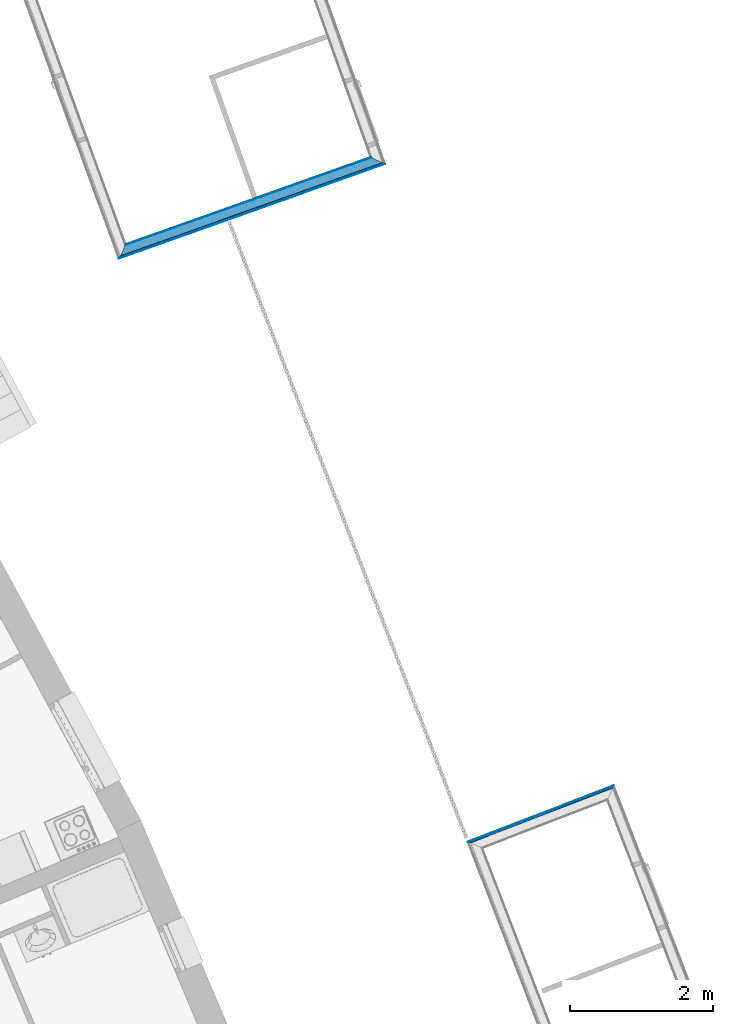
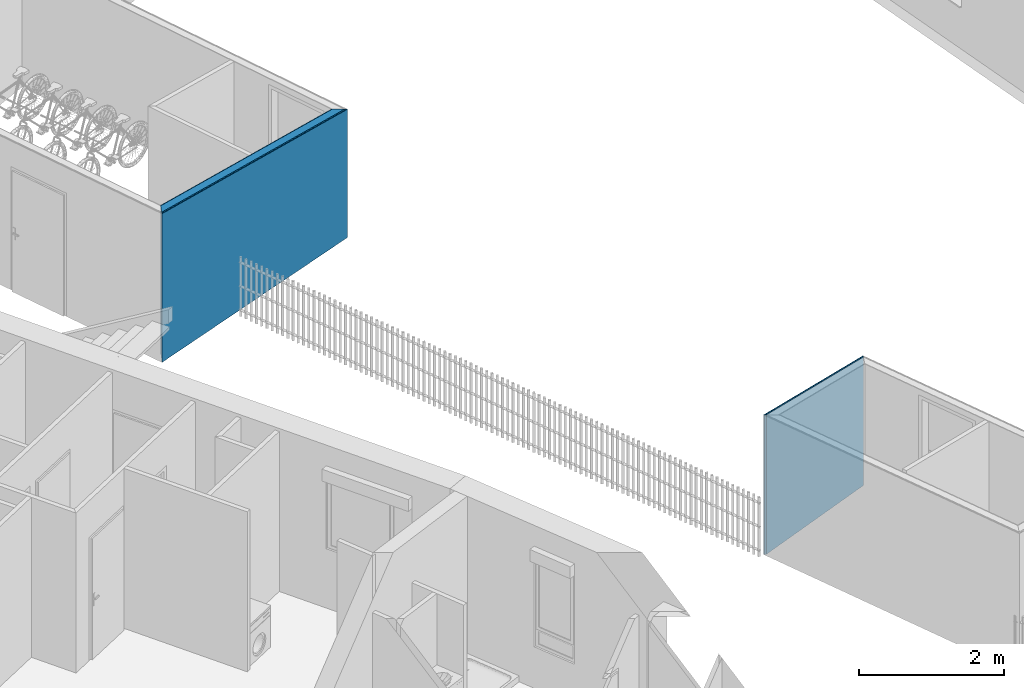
# One storey, part 128 of 195: 6 building element parts, 2 elements without a shape of their own.
"""IFC2X3 building model written with IfcOpenShell, lengths in metres."""

from ifc_helpers import new_model, entity, si_unit, converted_unit, derived_unit, money_unit, direction, frame, origin_with_axes, place, context, subcontext, project, spatial, polyline, outline, extrude, boolean, faceted_brep, material, type_object, element, aggregate, save


model = new_model("IFC2X3")

# Units and contexts
model_context = context("Model", 3, precision=1e-05, world=origin_with_axes(), true_north=direction((0.0, 1.0)))
body_context = subcontext(model_context, "Body", "Model", "MODEL_VIEW")
ifc_project = project(units=[si_unit("LENGTHUNIT", "METRE"), si_unit("AREAUNIT", "SQUARE_METRE"), si_unit("VOLUMEUNIT", "CUBIC_METRE"), converted_unit("PLANEANGLEUNIT", "DEGREE", entity("IfcPlaneAngleMeasure", 0.0174532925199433), si_unit("PLANEANGLEUNIT", "RADIAN"), dimensions=[0, 0, 0, 0, 0, 0, 0]), money_unit("CHF"), converted_unit("TIMEUNIT", "Year", entity("IfcTimeMeasure", 31557600.0), si_unit("TIMEUNIT", "SECOND"), dimensions=[0, 0, 1, 0, 0, 0, 0]), si_unit("MASSUNIT", "GRAM", prefix="KILO"), si_unit("THERMODYNAMICTEMPERATUREUNIT", "DEGREE_CELSIUS"), si_unit("LUMINOUSINTENSITYUNIT", "LUMEN"), si_unit("ENERGYUNIT", "JOULE", prefix="MEGA"), derived_unit("THERMALCONDUCTANCEUNIT", [(si_unit("POWERUNIT", "WATT"), 1), (si_unit("LENGTHUNIT", "METRE"), -1), (si_unit("THERMODYNAMICTEMPERATUREUNIT", "KELVIN"), -1)]), derived_unit("SPECIFICHEATCAPACITYUNIT", [(si_unit("ENERGYUNIT", "JOULE"), 1), (si_unit("MASSUNIT", "GRAM", prefix="KILO"), -1), (si_unit("THERMODYNAMICTEMPERATUREUNIT", "KELVIN"), -1)]), derived_unit("MASSDENSITYUNIT", [(si_unit("MASSUNIT", "GRAM", prefix="KILO"), 1), (si_unit("VOLUMEUNIT", "CUBIC_METRE"), -1)])], contexts=[model_context])

# Site, building, storey
site_placement = place(None, origin_with_axes())
site = spatial("IfcSite", under=ifc_project, at=site_placement, Name="Site", CompositionType="ELEMENT")
building_placement = place(site_placement, origin_with_axes())
building = spatial("IfcBuilding", under=site, at=building_placement, Name="Bâtiment", CompositionType="ELEMENT")
storey_placement = place(building_placement, origin_with_axes())
storey = spatial("IfcBuildingStorey", under=building, at=storey_placement, Name="rdc", CompositionType="ELEMENT", Elevation=0.0)

# Wall, building element parts
wall_type = type_object("IfcWallType", Name="1/Ossatur bois 160   non isol 160", PredefinedType="NOTDEFINED")
wall_1_placement = place(storey_placement, frame((9570.780394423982, -1026.049929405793, 57.7), z_axis=(0.0, 0.0, 1.0), x_axis=(-0.9421160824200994, -0.3352868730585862, 0.0)))
wall_1 = element("IfcWall", 1, at=wall_1_placement, inside=storey, type_object=wall_type, Name="Mur-108")
ifc_material_1 = material(Name="Sans Trame 296962763")
building_element_part_1_placement = place(wall_1_placement, origin_with_axes())
building_element_part_1 = element("IfcBuildingElementPart", 2, at=building_element_part_1_placement, material=ifc_material_1, Name="Sans Trame 296962763", context=body_context, shape_type="CSG", body=[
    boolean("DIFFERENCE", boolean("DIFFERENCE", boolean("DIFFERENCE", boolean("DIFFERENCE", extrude(outline(polyline([(0.0, -0.1599999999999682), (3.962207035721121, -0.1599999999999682), (3.962207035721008, -0.1499999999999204), (0.0, -0.1499999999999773), (0.0, -0.1599999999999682)])), origin_with_axes(), (0.0, 0.0, 1.0), 2.75), faceted_brep([(3.812134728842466, -0.1499999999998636, 0.0), (3.812134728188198, -0.1499999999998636, 2.497743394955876), (0.1500000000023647, -0.1499999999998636, 2.177348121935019), (0.1500000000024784, -0.1499999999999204, 0.0), (0.0, -0.1499999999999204, 0.0), (0.0, -0.1499999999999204, 2.75), (3.962207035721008, -0.1499999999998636, 2.75), (3.962207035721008, -0.1499999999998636, 0.0), (3.802203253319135, -0.1599999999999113, 0.0), (3.802203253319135, -0.1599999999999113, 2.49687450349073), (0.1600000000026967, -0.1599999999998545, 2.178223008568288), (0.1600000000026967, -0.1599999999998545, 0.0), (0.0, -0.1599999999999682, 0.0), (0.0, -0.1599999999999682, 2.75), (3.962207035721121, -0.1599999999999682, 2.75), (3.962207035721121, -0.1599999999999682, 0.0)], [[[0, 1, 2, 3, 4, 5, 6, 7]], [[8, 9, 1, 0]], [[2, 1, 9, 10]], [[3, 2, 10, 11]], [[3, 11, 12, 4]], [[5, 4, 12, 13]], [[5, 13, 14, 6]], [[14, 15, 7, 6]], [[8, 0, 7, 15]], [[9, 8, 15, 14, 13, 12, 11, 10]]])), faceted_brep([(3.93131243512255, -0.02999999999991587, 0.0), (3.9313124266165, -0.02999999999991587, 2.508170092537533), (0.03000000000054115, -0.02999999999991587, 2.166849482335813), (0.03000000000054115, -0.02999999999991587, 0.0), (0.0, -0.02999999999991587, 0.0), (0.0, -0.02999999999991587, 2.75), (3.962207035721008, -0.02999999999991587, 2.75), (3.962207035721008, -0.02999999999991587, 0.0), (3.812134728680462, -0.1500000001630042, 0.0), (3.812134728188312, -0.1499999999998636, 2.497743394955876), (0.1500000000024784, -0.1499999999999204, 2.177348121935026), (0.1500000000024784, -0.1499999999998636, 0.0), (0.0, -0.1499999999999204, 0.0), (0.0, -0.1499999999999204, 2.75), (3.962207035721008, -0.1499999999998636, 2.75), (3.962207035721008, -0.1499999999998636, 0.0)], [[[0, 1, 2, 3, 4, 5, 6, 7]], [[8, 9, 1, 0]], [[2, 1, 9, 10]], [[3, 2, 10, 11]], [[3, 11, 12, 4]], [[5, 4, 12, 13]], [[5, 13, 14, 6]], [[14, 15, 7, 6]], [[8, 0, 7, 15]], [[9, 8, 15, 14, 13, 12, 11, 10]]])), faceted_brep([(3.951175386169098, -0.009999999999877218, 0.0), (3.951175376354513, -0.009999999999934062, 2.50990787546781), (0.01000000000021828, -0.009999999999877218, 2.165099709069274), (0.01000000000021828, -0.009999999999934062, 0.0), (0.0, -0.009999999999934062, 0.0), (0.0, -0.009999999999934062, 2.75), (3.962207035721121, -0.009999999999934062, 2.75), (3.962207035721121, -0.009999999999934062, 0.0), (3.931312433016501, -0.03000000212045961, 0.0), (3.9313124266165, -0.02999999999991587, 2.508170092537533), (0.03000000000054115, -0.02999999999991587, 2.166849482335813), (0.03000000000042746, -0.02999999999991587, 0.0), (0.0, -0.02999999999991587, 0.0), (0.0, -0.02999999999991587, 2.75), (3.962207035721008, -0.02999999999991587, 2.75), (3.962207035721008, -0.02999999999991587, 0.0)], [[[0, 1, 2, 3, 4, 5, 6, 7]], [[8, 9, 1, 0]], [[2, 1, 9, 10]], [[3, 2, 10, 11]], [[3, 11, 12, 4]], [[5, 4, 12, 13]], [[5, 13, 14, 6]], [[14, 15, 7, 6]], [[8, 0, 7, 15]], [[9, 8, 15, 14, 13, 12, 11, 10]]])), faceted_brep([(3.961106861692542, 0.0, 0.0), (3.961106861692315, 1.054104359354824e-08, 2.510776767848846), (0.0, 0.0, 2.164224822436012), (0.0, 0.0, 2.75), (3.962207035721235, 0.0, 2.75), (3.962207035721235, 0.0, 0.0), (3.951175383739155, -0.01000000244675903, 0.0), (3.951175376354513, -0.009999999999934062, 2.50990787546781), (0.01000000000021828, -0.009999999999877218, 2.165099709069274), (0.0, 0.0, 0.0), (0.0, -0.009999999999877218, 0.0), (0.0, -0.009999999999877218, 2.75), (3.962207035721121, -0.009999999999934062, 2.75), (3.962207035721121, -0.009999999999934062, 0.0), (0.01000000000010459, -0.009999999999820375, 0.0)], [[[0, 1, 2, 3, 4, 5]], [[6, 7, 1, 0]], [[2, 1, 7, 8]], [[2, 9, 10, 11, 3]], [[3, 11, 12, 4]], [[12, 13, 5, 4]], [[6, 0, 5, 13]], [[7, 6, 13, 12, 11, 10, 14, 8]], [[9, 2, 8, 14]], [[9, 14, 10]]])),
])
ifc_material_2 = material(Name="Lame d'air 275581439")
building_element_part_2_placement = place(wall_1_placement, origin_with_axes())
building_element_part_2 = element("IfcBuildingElementPart", 3, at=building_element_part_2_placement, material=ifc_material_2, Name="Lame d'air 275581439", context=body_context, shape_type="CSG", body=[
    boolean("DIFFERENCE", boolean("DIFFERENCE", boolean("DIFFERENCE", boolean("DIFFERENCE", extrude(outline(polyline([(0.0, -0.1499999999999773), (3.962207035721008, -0.1499999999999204), (3.962207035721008, -0.02999999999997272), (0.0, -0.02999999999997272), (0.0, -0.1499999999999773)])), origin_with_axes(), (0.0, 0.0, 1.0), 2.75), faceted_brep([(3.812134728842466, -0.1499999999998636, 0.0), (3.812134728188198, -0.1499999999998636, 2.497743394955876), (0.1500000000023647, -0.1499999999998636, 2.177348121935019), (0.1500000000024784, -0.1499999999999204, 0.0), (0.0, -0.1499999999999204, 0.0), (0.0, -0.1499999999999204, 2.75), (3.962207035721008, -0.1499999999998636, 2.75), (3.962207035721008, -0.1499999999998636, 0.0), (3.802203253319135, -0.1599999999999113, 0.0), (3.802203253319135, -0.1599999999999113, 2.49687450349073), (0.1600000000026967, -0.1599999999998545, 2.178223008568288), (0.1600000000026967, -0.1599999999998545, 0.0), (0.0, -0.1599999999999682, 0.0), (0.0, -0.1599999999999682, 2.75), (3.962207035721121, -0.1599999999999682, 2.75), (3.962207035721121, -0.1599999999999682, 0.0)], [[[0, 1, 2, 3, 4, 5, 6, 7]], [[8, 9, 1, 0]], [[2, 1, 9, 10]], [[3, 2, 10, 11]], [[3, 11, 12, 4]], [[5, 4, 12, 13]], [[5, 13, 14, 6]], [[14, 15, 7, 6]], [[8, 0, 7, 15]], [[9, 8, 15, 14, 13, 12, 11, 10]]])), faceted_brep([(3.93131243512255, -0.02999999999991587, 0.0), (3.9313124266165, -0.02999999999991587, 2.508170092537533), (0.03000000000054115, -0.02999999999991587, 2.166849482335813), (0.03000000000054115, -0.02999999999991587, 0.0), (0.0, -0.02999999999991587, 0.0), (0.0, -0.02999999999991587, 2.75), (3.962207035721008, -0.02999999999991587, 2.75), (3.962207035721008, -0.02999999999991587, 0.0), (3.812134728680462, -0.1500000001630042, 0.0), (3.812134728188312, -0.1499999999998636, 2.497743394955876), (0.1500000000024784, -0.1499999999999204, 2.177348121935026), (0.1500000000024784, -0.1499999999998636, 0.0), (0.0, -0.1499999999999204, 0.0), (0.0, -0.1499999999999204, 2.75), (3.962207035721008, -0.1499999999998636, 2.75), (3.962207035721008, -0.1499999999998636, 0.0)], [[[0, 1, 2, 3, 4, 5, 6, 7]], [[8, 9, 1, 0]], [[2, 1, 9, 10]], [[3, 2, 10, 11]], [[3, 11, 12, 4]], [[5, 4, 12, 13]], [[5, 13, 14, 6]], [[14, 15, 7, 6]], [[8, 0, 7, 15]], [[9, 8, 15, 14, 13, 12, 11, 10]]])), faceted_brep([(3.951175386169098, -0.009999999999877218, 0.0), (3.951175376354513, -0.009999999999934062, 2.50990787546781), (0.01000000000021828, -0.009999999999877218, 2.165099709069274), (0.01000000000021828, -0.009999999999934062, 0.0), (0.0, -0.009999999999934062, 0.0), (0.0, -0.009999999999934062, 2.75), (3.962207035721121, -0.009999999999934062, 2.75), (3.962207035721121, -0.009999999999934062, 0.0), (3.931312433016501, -0.03000000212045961, 0.0), (3.9313124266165, -0.02999999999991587, 2.508170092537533), (0.03000000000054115, -0.02999999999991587, 2.166849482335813), (0.03000000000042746, -0.02999999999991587, 0.0), (0.0, -0.02999999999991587, 0.0), (0.0, -0.02999999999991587, 2.75), (3.962207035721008, -0.02999999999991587, 2.75), (3.962207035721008, -0.02999999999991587, 0.0)], [[[0, 1, 2, 3, 4, 5, 6, 7]], [[8, 9, 1, 0]], [[2, 1, 9, 10]], [[3, 2, 10, 11]], [[3, 11, 12, 4]], [[5, 4, 12, 13]], [[5, 13, 14, 6]], [[14, 15, 7, 6]], [[8, 0, 7, 15]], [[9, 8, 15, 14, 13, 12, 11, 10]]])), faceted_brep([(3.961106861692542, 0.0, 0.0), (3.961106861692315, 1.054104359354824e-08, 2.510776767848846), (0.0, 0.0, 2.164224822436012), (0.0, 0.0, 2.75), (3.962207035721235, 0.0, 2.75), (3.962207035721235, 0.0, 0.0), (3.951175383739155, -0.01000000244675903, 0.0), (3.951175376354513, -0.009999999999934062, 2.50990787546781), (0.01000000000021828, -0.009999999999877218, 2.165099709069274), (0.0, 0.0, 0.0), (0.0, -0.009999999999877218, 0.0), (0.0, -0.009999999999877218, 2.75), (3.962207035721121, -0.009999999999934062, 2.75), (3.962207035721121, -0.009999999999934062, 0.0), (0.01000000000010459, -0.009999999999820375, 0.0)], [[[0, 1, 2, 3, 4, 5]], [[6, 7, 1, 0]], [[2, 1, 7, 8]], [[2, 9, 10, 11, 3]], [[3, 11, 12, 4]], [[12, 13, 5, 4]], [[6, 0, 5, 13]], [[7, 6, 13, 12, 11, 10, 14, 8]], [[9, 2, 8, 14]], [[9, 14, 10]]])),
])
ifc_material_3 = material(Name="Hachure solide 323202122")
building_element_part_3_placement = place(wall_1_placement, origin_with_axes())
building_element_part_3 = element("IfcBuildingElementPart", 4, at=building_element_part_3_placement, material=ifc_material_3, Name="Hachure solide 323202122", context=body_context, shape_type="CSG", body=[
    boolean("DIFFERENCE", boolean("DIFFERENCE", boolean("DIFFERENCE", boolean("DIFFERENCE", extrude(outline(polyline([(0.0, -0.009999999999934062), (3.962207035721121, -0.009999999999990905), (3.962207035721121, 0.0), (0.0, 0.0), (0.0, -0.009999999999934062)])), origin_with_axes(), (0.0, 0.0, 1.0), 2.75), faceted_brep([(3.812134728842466, -0.1499999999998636, 0.0), (3.812134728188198, -0.1499999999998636, 2.497743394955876), (0.1500000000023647, -0.1499999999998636, 2.177348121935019), (0.1500000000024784, -0.1499999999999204, 0.0), (0.0, -0.1499999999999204, 0.0), (0.0, -0.1499999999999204, 2.75), (3.962207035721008, -0.1499999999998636, 2.75), (3.962207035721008, -0.1499999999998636, 0.0), (3.802203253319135, -0.1599999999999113, 0.0), (3.802203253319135, -0.1599999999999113, 2.49687450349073), (0.1600000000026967, -0.1599999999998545, 2.178223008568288), (0.1600000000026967, -0.1599999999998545, 0.0), (0.0, -0.1599999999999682, 0.0), (0.0, -0.1599999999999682, 2.75), (3.962207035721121, -0.1599999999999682, 2.75), (3.962207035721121, -0.1599999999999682, 0.0)], [[[0, 1, 2, 3, 4, 5, 6, 7]], [[8, 9, 1, 0]], [[2, 1, 9, 10]], [[3, 2, 10, 11]], [[3, 11, 12, 4]], [[5, 4, 12, 13]], [[5, 13, 14, 6]], [[14, 15, 7, 6]], [[8, 0, 7, 15]], [[9, 8, 15, 14, 13, 12, 11, 10]]])), faceted_brep([(3.93131243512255, -0.02999999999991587, 0.0), (3.9313124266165, -0.02999999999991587, 2.508170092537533), (0.03000000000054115, -0.02999999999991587, 2.166849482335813), (0.03000000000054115, -0.02999999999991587, 0.0), (0.0, -0.02999999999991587, 0.0), (0.0, -0.02999999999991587, 2.75), (3.962207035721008, -0.02999999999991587, 2.75), (3.962207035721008, -0.02999999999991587, 0.0), (3.812134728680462, -0.1500000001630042, 0.0), (3.812134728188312, -0.1499999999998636, 2.497743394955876), (0.1500000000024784, -0.1499999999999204, 2.177348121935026), (0.1500000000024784, -0.1499999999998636, 0.0), (0.0, -0.1499999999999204, 0.0), (0.0, -0.1499999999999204, 2.75), (3.962207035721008, -0.1499999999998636, 2.75), (3.962207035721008, -0.1499999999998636, 0.0)], [[[0, 1, 2, 3, 4, 5, 6, 7]], [[8, 9, 1, 0]], [[2, 1, 9, 10]], [[3, 2, 10, 11]], [[3, 11, 12, 4]], [[5, 4, 12, 13]], [[5, 13, 14, 6]], [[14, 15, 7, 6]], [[8, 0, 7, 15]], [[9, 8, 15, 14, 13, 12, 11, 10]]])), faceted_brep([(3.951175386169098, -0.009999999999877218, 0.0), (3.951175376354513, -0.009999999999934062, 2.50990787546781), (0.01000000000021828, -0.009999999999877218, 2.165099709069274), (0.01000000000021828, -0.009999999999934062, 0.0), (0.0, -0.009999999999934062, 0.0), (0.0, -0.009999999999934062, 2.75), (3.962207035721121, -0.009999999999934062, 2.75), (3.962207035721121, -0.009999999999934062, 0.0), (3.931312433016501, -0.03000000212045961, 0.0), (3.9313124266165, -0.02999999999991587, 2.508170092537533), (0.03000000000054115, -0.02999999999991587, 2.166849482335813), (0.03000000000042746, -0.02999999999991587, 0.0), (0.0, -0.02999999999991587, 0.0), (0.0, -0.02999999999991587, 2.75), (3.962207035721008, -0.02999999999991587, 2.75), (3.962207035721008, -0.02999999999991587, 0.0)], [[[0, 1, 2, 3, 4, 5, 6, 7]], [[8, 9, 1, 0]], [[2, 1, 9, 10]], [[3, 2, 10, 11]], [[3, 11, 12, 4]], [[5, 4, 12, 13]], [[5, 13, 14, 6]], [[14, 15, 7, 6]], [[8, 0, 7, 15]], [[9, 8, 15, 14, 13, 12, 11, 10]]])), faceted_brep([(3.961106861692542, 0.0, 0.0), (3.961106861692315, 1.054104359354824e-08, 2.510776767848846), (0.0, 0.0, 2.164224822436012), (0.0, 0.0, 2.75), (3.962207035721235, 0.0, 2.75), (3.962207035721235, 0.0, 0.0), (3.951175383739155, -0.01000000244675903, 0.0), (3.951175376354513, -0.009999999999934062, 2.50990787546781), (0.01000000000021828, -0.009999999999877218, 2.165099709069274), (0.0, 0.0, 0.0), (0.0, -0.009999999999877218, 0.0), (0.0, -0.009999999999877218, 2.75), (3.962207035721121, -0.009999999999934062, 2.75), (3.962207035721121, -0.009999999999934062, 0.0), (0.01000000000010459, -0.009999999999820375, 0.0)], [[[0, 1, 2, 3, 4, 5]], [[6, 7, 1, 0]], [[2, 1, 7, 8]], [[2, 9, 10, 11, 3]], [[3, 11, 12, 4]], [[12, 13, 5, 4]], [[6, 0, 5, 13]], [[7, 6, 13, 12, 11, 10, 14, 8]], [[9, 2, 8, 14]], [[9, 14, 10]]])),
])
ifc_material_4 = material(Name="Lame d'air 323202302")
building_element_part_4_placement = place(wall_1_placement, origin_with_axes())
building_element_part_4 = element("IfcBuildingElementPart", 5, at=building_element_part_4_placement, material=ifc_material_4, Name="Lame d'air 323202302", context=body_context, shape_type="CSG", body=[
    boolean("DIFFERENCE", boolean("DIFFERENCE", boolean("DIFFERENCE", boolean("DIFFERENCE", extrude(outline(polyline([(0.0, -0.02999999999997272), (3.962207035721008, -0.02999999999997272), (3.962207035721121, -0.009999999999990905), (0.0, -0.009999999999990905), (0.0, -0.02999999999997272)])), origin_with_axes(), (0.0, 0.0, 1.0), 2.75), faceted_brep([(3.812134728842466, -0.1499999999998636, 0.0), (3.812134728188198, -0.1499999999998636, 2.497743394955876), (0.1500000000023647, -0.1499999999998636, 2.177348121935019), (0.1500000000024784, -0.1499999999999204, 0.0), (0.0, -0.1499999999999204, 0.0), (0.0, -0.1499999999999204, 2.75), (3.962207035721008, -0.1499999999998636, 2.75), (3.962207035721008, -0.1499999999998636, 0.0), (3.802203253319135, -0.1599999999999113, 0.0), (3.802203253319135, -0.1599999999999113, 2.49687450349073), (0.1600000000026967, -0.1599999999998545, 2.178223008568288), (0.1600000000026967, -0.1599999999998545, 0.0), (0.0, -0.1599999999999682, 0.0), (0.0, -0.1599999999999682, 2.75), (3.962207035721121, -0.1599999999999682, 2.75), (3.962207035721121, -0.1599999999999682, 0.0)], [[[0, 1, 2, 3, 4, 5, 6, 7]], [[8, 9, 1, 0]], [[2, 1, 9, 10]], [[3, 2, 10, 11]], [[3, 11, 12, 4]], [[5, 4, 12, 13]], [[5, 13, 14, 6]], [[14, 15, 7, 6]], [[8, 0, 7, 15]], [[9, 8, 15, 14, 13, 12, 11, 10]]])), faceted_brep([(3.93131243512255, -0.02999999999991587, 0.0), (3.9313124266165, -0.02999999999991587, 2.508170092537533), (0.03000000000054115, -0.02999999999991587, 2.166849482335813), (0.03000000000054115, -0.02999999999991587, 0.0), (0.0, -0.02999999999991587, 0.0), (0.0, -0.02999999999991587, 2.75), (3.962207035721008, -0.02999999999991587, 2.75), (3.962207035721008, -0.02999999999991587, 0.0), (3.812134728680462, -0.1500000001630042, 0.0), (3.812134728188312, -0.1499999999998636, 2.497743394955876), (0.1500000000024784, -0.1499999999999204, 2.177348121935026), (0.1500000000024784, -0.1499999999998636, 0.0), (0.0, -0.1499999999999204, 0.0), (0.0, -0.1499999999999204, 2.75), (3.962207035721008, -0.1499999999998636, 2.75), (3.962207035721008, -0.1499999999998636, 0.0)], [[[0, 1, 2, 3, 4, 5, 6, 7]], [[8, 9, 1, 0]], [[2, 1, 9, 10]], [[3, 2, 10, 11]], [[3, 11, 12, 4]], [[5, 4, 12, 13]], [[5, 13, 14, 6]], [[14, 15, 7, 6]], [[8, 0, 7, 15]], [[9, 8, 15, 14, 13, 12, 11, 10]]])), faceted_brep([(3.951175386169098, -0.009999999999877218, 0.0), (3.951175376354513, -0.009999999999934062, 2.50990787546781), (0.01000000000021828, -0.009999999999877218, 2.165099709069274), (0.01000000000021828, -0.009999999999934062, 0.0), (0.0, -0.009999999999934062, 0.0), (0.0, -0.009999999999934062, 2.75), (3.962207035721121, -0.009999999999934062, 2.75), (3.962207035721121, -0.009999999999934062, 0.0), (3.931312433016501, -0.03000000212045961, 0.0), (3.9313124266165, -0.02999999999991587, 2.508170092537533), (0.03000000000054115, -0.02999999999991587, 2.166849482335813), (0.03000000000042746, -0.02999999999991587, 0.0), (0.0, -0.02999999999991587, 0.0), (0.0, -0.02999999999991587, 2.75), (3.962207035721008, -0.02999999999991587, 2.75), (3.962207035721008, -0.02999999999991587, 0.0)], [[[0, 1, 2, 3, 4, 5, 6, 7]], [[8, 9, 1, 0]], [[2, 1, 9, 10]], [[3, 2, 10, 11]], [[3, 11, 12, 4]], [[5, 4, 12, 13]], [[5, 13, 14, 6]], [[14, 15, 7, 6]], [[8, 0, 7, 15]], [[9, 8, 15, 14, 13, 12, 11, 10]]])), faceted_brep([(3.961106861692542, 0.0, 0.0), (3.961106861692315, 1.054104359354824e-08, 2.510776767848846), (0.0, 0.0, 2.164224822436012), (0.0, 0.0, 2.75), (3.962207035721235, 0.0, 2.75), (3.962207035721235, 0.0, 0.0), (3.951175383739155, -0.01000000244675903, 0.0), (3.951175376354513, -0.009999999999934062, 2.50990787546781), (0.01000000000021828, -0.009999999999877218, 2.165099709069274), (0.0, 0.0, 0.0), (0.0, -0.009999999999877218, 0.0), (0.0, -0.009999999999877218, 2.75), (3.962207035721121, -0.009999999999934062, 2.75), (3.962207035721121, -0.009999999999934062, 0.0), (0.01000000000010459, -0.009999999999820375, 0.0)], [[[0, 1, 2, 3, 4, 5]], [[6, 7, 1, 0]], [[2, 1, 7, 8]], [[2, 9, 10, 11, 3]], [[3, 11, 12, 4]], [[12, 13, 5, 4]], [[6, 0, 5, 13]], [[7, 6, 13, 12, 11, 10, 14, 8]], [[9, 2, 8, 14]], [[9, 14, 10]]])),
])
aggregate(wall_1, [building_element_part_1, building_element_part_2, building_element_part_3, building_element_part_4])

wall_2_placement = place(storey_placement, frame((9571.936420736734, -1035.544370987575, 57.7), z_axis=(0.0, 0.0, 1.0), x_axis=(0.9332123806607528, 0.3593252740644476, 0.0)))
wall_2 = element("IfcWall", 6, at=wall_2_placement, inside=storey, type_object=wall_type, Name="Mur-109")
building_element_part_5_placement = place(wall_2_placement, origin_with_axes())
building_element_part_5 = element("IfcBuildingElementPart", 7, at=building_element_part_5_placement, material=ifc_material_4, Name="Lame d'air 323202302", context=body_context, shape_type="CSG", body=[
    boolean("DIFFERENCE", boolean("DIFFERENCE", boolean("DIFFERENCE", boolean("DIFFERENCE", extrude(outline(polyline([(0.0, -0.02999999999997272), (2.193108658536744, -0.02999999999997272), (2.193108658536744, -0.009999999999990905), (0.0, -0.009999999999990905), (0.0, -0.02999999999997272)])), origin_with_axes(), (0.0, 0.0, 1.0), 2.75), faceted_brep([(0.1500000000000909, -0.1500000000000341, 2.342973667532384), (0.1500000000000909, -0.1500000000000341, 0.0), (0.0, -0.1499999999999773, 0.0), (0.0, -0.1499999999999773, 2.75), (2.19310865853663, -0.1499999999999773, 2.75), (2.19310865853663, -0.1499999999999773, 0.0), (2.043108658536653, -0.1499999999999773, 0.0), (2.043108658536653, -0.1499999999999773, 2.177348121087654), (0.1600000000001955, -0.160000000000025, 2.342098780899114), (0.1600000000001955, -0.160000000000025, 0.0), (0.0, -0.160000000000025, 0.0), (0.0, -0.160000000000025, 2.75), (2.19310865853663, -0.160000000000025, 2.75), (2.19310865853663, -0.160000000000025, 0.0), (2.033108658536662, -0.1600000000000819, 0.0), (2.033108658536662, -0.1600000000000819, 2.17822300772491)], [[[0, 1, 2, 3, 4, 5, 6, 7]], [[8, 9, 1, 0]], [[1, 9, 10, 2]], [[3, 2, 10, 11]], [[3, 11, 12, 4]], [[12, 13, 5, 4]], [[14, 6, 5, 13]], [[7, 6, 14, 15]], [[0, 7, 15, 8]], [[15, 14, 13, 12, 11, 10, 9, 8]]])), faceted_brep([(0.0300000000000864, -0.0300000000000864, 2.35347230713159), (0.0300000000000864, -0.03000000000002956, 0.0), (0.0, -0.03000000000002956, 0.0), (0.0, -0.03000000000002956, 2.75), (2.193108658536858, -0.03000000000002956, 2.75), (2.193108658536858, -0.03000000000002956, 0.0), (2.163108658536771, -0.03000000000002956, 0.0), (2.163108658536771, -0.03000000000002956, 2.166849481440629), (0.1500000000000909, -0.1500000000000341, 2.342973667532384), (0.1500000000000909, -0.1500000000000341, 0.0), (0.0, -0.1499999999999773, 0.0), (0.0, -0.1499999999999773, 2.75), (2.19310865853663, -0.1499999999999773, 2.75), (2.19310865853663, -0.1499999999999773, 0.0), (2.043108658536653, -0.1499999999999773, 0.0), (2.043108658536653, -0.1499999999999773, 2.177348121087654)], [[[0, 1, 2, 3, 4, 5, 6, 7]], [[8, 9, 1, 0]], [[1, 9, 10, 2]], [[3, 2, 10, 11]], [[3, 11, 12, 4]], [[12, 13, 5, 4]], [[14, 6, 5, 13]], [[7, 6, 14, 15]], [[0, 7, 15, 8]], [[15, 14, 13, 12, 11, 10, 9, 8]]])), faceted_brep([(0.009999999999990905, -0.009999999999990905, 2.355222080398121), (0.01000000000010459, -0.01000000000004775, 0.0), (0.0, -0.01000000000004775, 0.0), (0.0, -0.01000000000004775, 2.75), (2.193108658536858, -0.01000000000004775, 2.75), (2.193108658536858, -0.01000000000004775, 0.0), (2.183108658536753, -0.01000000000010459, 0.0), (2.183108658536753, -0.01000000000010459, 2.165099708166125), (0.0300000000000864, -0.03000000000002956, 2.35347230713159), (0.0300000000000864, -0.03000000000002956, 0.0), (0.0, -0.03000000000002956, 0.0), (0.0, -0.03000000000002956, 2.75), (2.193108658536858, -0.03000000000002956, 2.75), (2.193108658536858, -0.03000000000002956, 0.0), (2.163108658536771, -0.03000000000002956, 0.0), (2.163108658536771, -0.02999999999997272, 2.166849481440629)], [[[0, 1, 2, 3, 4, 5, 6, 7]], [[8, 9, 1, 0]], [[1, 9, 10, 2]], [[3, 2, 10, 11]], [[3, 11, 12, 4]], [[12, 13, 5, 4]], [[14, 6, 5, 13]], [[7, 6, 14, 15]], [[0, 7, 15, 8]], [[15, 14, 13, 12, 11, 10, 9, 8]]])), faceted_brep([(2.19310865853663, 0.0, 0.0), (2.19310865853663, 0.0, 2.164224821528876), (2.19310865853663, 0.0, 2.75), (2.193108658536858, -0.01000000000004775, 2.75), (2.193108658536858, -0.01000000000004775, 0.0), (2.183108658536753, -0.01000000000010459, 0.0), (2.183108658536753, -0.01000000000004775, 2.165099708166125), (0.0, 0.0, 2.356096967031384), (0.0, 0.0, 2.75), (0.0, -0.01000000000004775, 2.75), (0.0, -0.01000000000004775, 0.0), (0.01000000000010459, -0.01000000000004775, 0.0), (0.009999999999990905, -0.009999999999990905, 2.355222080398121), (0.0, 0.0, 0.0)], [[[0, 1, 2, 3, 4]], [[1, 0, 5, 6]], [[1, 7, 8, 2]], [[8, 9, 3, 2]], [[6, 5, 4, 3, 9, 10, 11, 12]], [[5, 0, 4]], [[7, 1, 6, 12]], [[7, 13, 10, 9, 8]], [[13, 11, 10]], [[12, 11, 13, 7]]])),
])
building_element_part_6_placement = place(wall_2_placement, origin_with_axes())
building_element_part_6 = element("IfcBuildingElementPart", 8, at=building_element_part_6_placement, material=ifc_material_3, Name="Hachure solide 323202122", context=body_context, shape_type="CSG", body=[
    boolean("DIFFERENCE", boolean("DIFFERENCE", boolean("DIFFERENCE", boolean("DIFFERENCE", extrude(outline(polyline([(0.0, -0.009999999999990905), (2.193108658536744, -0.009999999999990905), (2.19310865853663, 0.0), (0.0, 0.0), (0.0, -0.009999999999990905)])), origin_with_axes(), (0.0, 0.0, 1.0), 2.75), faceted_brep([(0.1500000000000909, -0.1500000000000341, 2.342973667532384), (0.1500000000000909, -0.1500000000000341, 0.0), (0.0, -0.1499999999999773, 0.0), (0.0, -0.1499999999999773, 2.75), (2.19310865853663, -0.1499999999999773, 2.75), (2.19310865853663, -0.1499999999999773, 0.0), (2.043108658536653, -0.1499999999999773, 0.0), (2.043108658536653, -0.1499999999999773, 2.177348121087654), (0.1600000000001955, -0.160000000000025, 2.342098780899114), (0.1600000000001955, -0.160000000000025, 0.0), (0.0, -0.160000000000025, 0.0), (0.0, -0.160000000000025, 2.75), (2.19310865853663, -0.160000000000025, 2.75), (2.19310865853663, -0.160000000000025, 0.0), (2.033108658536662, -0.1600000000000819, 0.0), (2.033108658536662, -0.1600000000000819, 2.17822300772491)], [[[0, 1, 2, 3, 4, 5, 6, 7]], [[8, 9, 1, 0]], [[1, 9, 10, 2]], [[3, 2, 10, 11]], [[3, 11, 12, 4]], [[12, 13, 5, 4]], [[14, 6, 5, 13]], [[7, 6, 14, 15]], [[0, 7, 15, 8]], [[15, 14, 13, 12, 11, 10, 9, 8]]])), faceted_brep([(0.0300000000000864, -0.0300000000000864, 2.35347230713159), (0.0300000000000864, -0.03000000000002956, 0.0), (0.0, -0.03000000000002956, 0.0), (0.0, -0.03000000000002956, 2.75), (2.193108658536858, -0.03000000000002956, 2.75), (2.193108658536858, -0.03000000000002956, 0.0), (2.163108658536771, -0.03000000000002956, 0.0), (2.163108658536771, -0.03000000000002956, 2.166849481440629), (0.1500000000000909, -0.1500000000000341, 2.342973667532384), (0.1500000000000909, -0.1500000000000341, 0.0), (0.0, -0.1499999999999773, 0.0), (0.0, -0.1499999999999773, 2.75), (2.19310865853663, -0.1499999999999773, 2.75), (2.19310865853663, -0.1499999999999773, 0.0), (2.043108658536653, -0.1499999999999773, 0.0), (2.043108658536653, -0.1499999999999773, 2.177348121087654)], [[[0, 1, 2, 3, 4, 5, 6, 7]], [[8, 9, 1, 0]], [[1, 9, 10, 2]], [[3, 2, 10, 11]], [[3, 11, 12, 4]], [[12, 13, 5, 4]], [[14, 6, 5, 13]], [[7, 6, 14, 15]], [[0, 7, 15, 8]], [[15, 14, 13, 12, 11, 10, 9, 8]]])), faceted_brep([(0.009999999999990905, -0.009999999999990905, 2.355222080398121), (0.01000000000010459, -0.01000000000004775, 0.0), (0.0, -0.01000000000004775, 0.0), (0.0, -0.01000000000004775, 2.75), (2.193108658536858, -0.01000000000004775, 2.75), (2.193108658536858, -0.01000000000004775, 0.0), (2.183108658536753, -0.01000000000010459, 0.0), (2.183108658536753, -0.01000000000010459, 2.165099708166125), (0.0300000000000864, -0.03000000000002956, 2.35347230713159), (0.0300000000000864, -0.03000000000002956, 0.0), (0.0, -0.03000000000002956, 0.0), (0.0, -0.03000000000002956, 2.75), (2.193108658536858, -0.03000000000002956, 2.75), (2.193108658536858, -0.03000000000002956, 0.0), (2.163108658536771, -0.03000000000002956, 0.0), (2.163108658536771, -0.02999999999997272, 2.166849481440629)], [[[0, 1, 2, 3, 4, 5, 6, 7]], [[8, 9, 1, 0]], [[1, 9, 10, 2]], [[3, 2, 10, 11]], [[3, 11, 12, 4]], [[12, 13, 5, 4]], [[14, 6, 5, 13]], [[7, 6, 14, 15]], [[0, 7, 15, 8]], [[15, 14, 13, 12, 11, 10, 9, 8]]])), faceted_brep([(2.19310865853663, 0.0, 0.0), (2.19310865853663, 0.0, 2.164224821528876), (2.19310865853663, 0.0, 2.75), (2.193108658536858, -0.01000000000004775, 2.75), (2.193108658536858, -0.01000000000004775, 0.0), (2.183108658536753, -0.01000000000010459, 0.0), (2.183108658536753, -0.01000000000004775, 2.165099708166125), (0.0, 0.0, 2.356096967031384), (0.0, 0.0, 2.75), (0.0, -0.01000000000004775, 2.75), (0.0, -0.01000000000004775, 0.0), (0.01000000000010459, -0.01000000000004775, 0.0), (0.009999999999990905, -0.009999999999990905, 2.355222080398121), (0.0, 0.0, 0.0)], [[[0, 1, 2, 3, 4]], [[1, 0, 5, 6]], [[1, 7, 8, 2]], [[8, 9, 3, 2]], [[6, 5, 4, 3, 9, 10, 11, 12]], [[5, 0, 4]], [[7, 1, 6, 12]], [[7, 13, 10, 9, 8]], [[13, 11, 10]], [[12, 11, 13, 7]]])),
])
aggregate(wall_2, [building_element_part_5, building_element_part_6])

save(model, "model.ifc")
